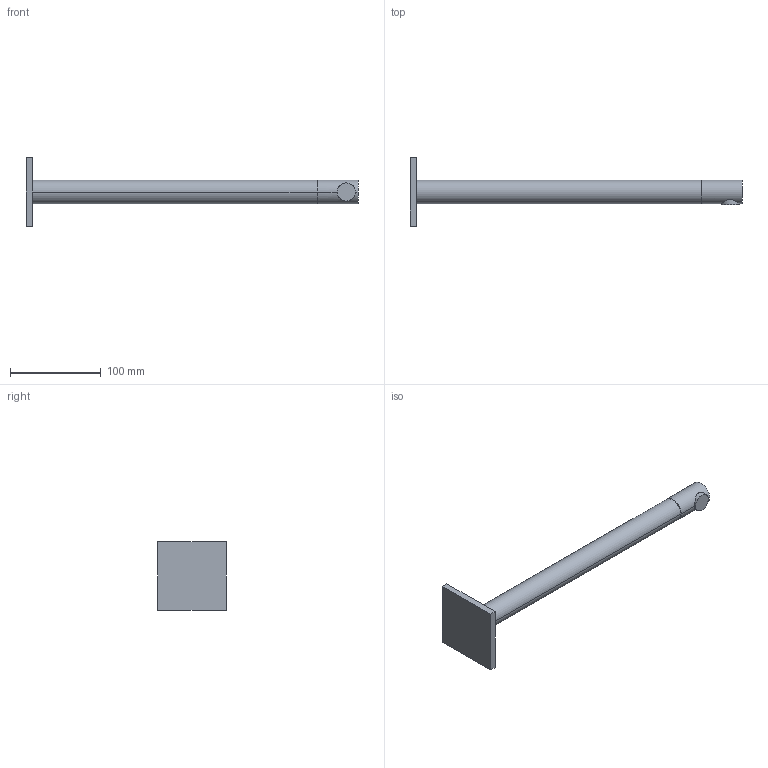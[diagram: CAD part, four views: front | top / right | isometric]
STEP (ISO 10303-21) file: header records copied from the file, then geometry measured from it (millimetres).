
FILE_DESCRIPTION((''),'2;1');
FILE_NAME('26_000_813_XXX','2012-01-13T',('hpf'),(''),'PRO/ENGINEER BY PARAMETRIC TECHNOLOGY CORPORATION, 2011080','PRO/ENGINEER BY PARAMETRIC TECHNOLOGY CORPORATION, 2011080','');
FILE_SCHEMA(('AUTOMOTIVE_DESIGN_CC2 { 1 2 10303 214 -1 1 5 2 }'));
Length unit declared in the file: millimetre
Products named in the file (1): 26_000_813_XXX
Bounding box: 365 x 75 x 75 mm (x, y, z)
Volume: 225700.2 mm3; surface area: 42636.1 mm2
Topology: 1 solids, 1 shells, 18 faces, 37 edges, 24 vertices
Faces by surface type: plane 10, cylinder 8
Entity records: 562 total; most frequent: CARTESIAN_POINT 113, DIRECTION 85, ORIENTED_EDGE 74, COLOUR_RGB 39, EDGE_CURVE 37, AXIS2_PLACEMENT_3D 32, VERTEX_POINT 24, VECTOR 21
